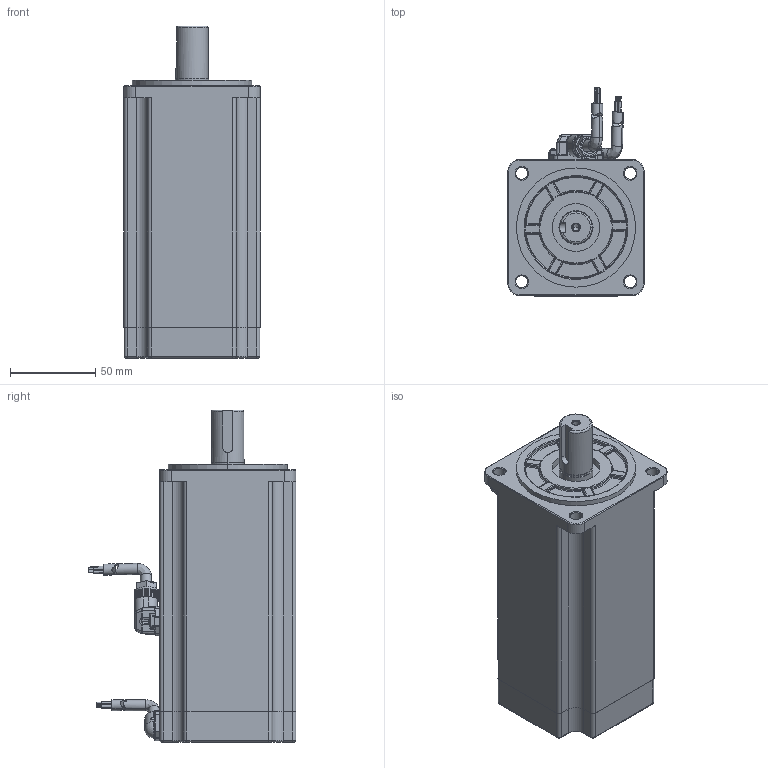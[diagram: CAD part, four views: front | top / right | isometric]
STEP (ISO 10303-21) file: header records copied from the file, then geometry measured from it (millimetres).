
FILE_DESCRIPTION (( 'STEP AP214' ), '1' );
FILE_NAME ('高压220V 1000W刹车电机 L=160mm.STEP', '2021-10-20T09:19:53', ( '微软用户' ), ( '微软中国' ), 'SwSTEP 2.0', 'SolidWorks 2014', '' );
FILE_SCHEMA (( 'AUTOMOTIVE_DESIGN' ));
Length unit declared in the file: millimetre
Products named in the file (9): HN5J-106C; GB／T818-2000十字槽盘头螺钉M2．5×5; 萇埭盄; 1000W价陬儂旯L=159mm; 晤鎢ん郪璃B; 萇埭盄郪璃; 晤鎢ん揤盄裔; 詢揤220V 1000W价陬萇儂 L=160mm; HN5J-106D
Assembly tree (12 placements, depth 3):
  詢揤220V 1000W价陬萇儂 L=160mm
    1000W价陬儂旯L=159mm
    晤鎢ん郪璃B
      萇埭盄
      GB／T818-2000十字槽盘头螺钉M2．5×5  x2
      晤鎢ん揤盄裔
    萇埭盄郪璃
      HN5J-106C
      HN5J-106D
      萇埭盄
      GB／T818-2000十字槽盘头螺钉M2．5×5  x2
Bounding box: 80 x 122.09 x 195 mm (x, y, z)
Volume: 925596.4 mm3; surface area: 73473.7 mm2
Topology: 10 solids, 16 shells, 1330 faces, 3311 edges, 2018 vertices
Faces by surface type: plane 504, cylinder 351, bspline 308, torus 80, sphere 47, cone 40
Entity records: 54318 total; most frequent: CARTESIAN_POINT 27160, ORIENTED_EDGE 5977, DIRECTION 4914, EDGE_CURVE 3007, VERTEX_POINT 1863, AXIS2_PLACEMENT_3D 1734, LINE 1446, VECTOR 1446
